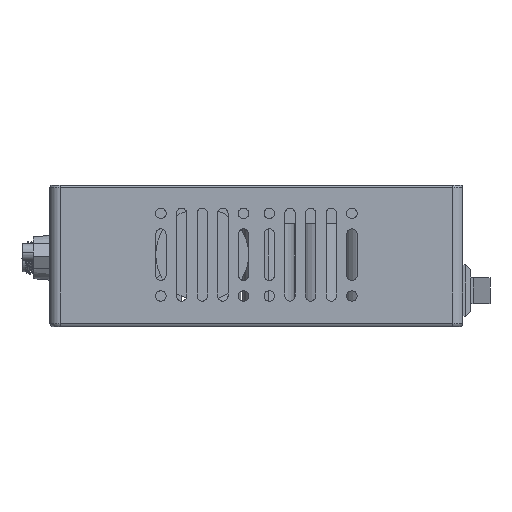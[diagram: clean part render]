
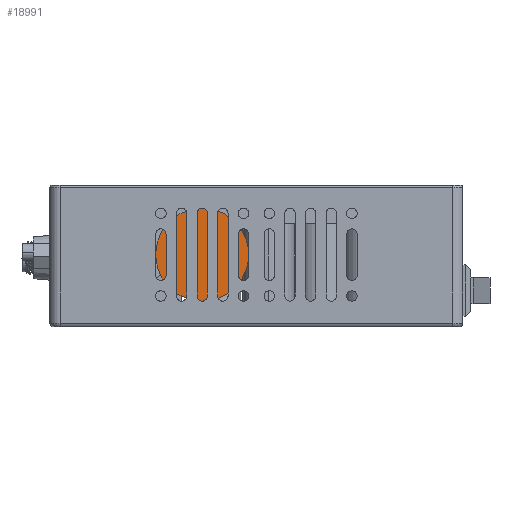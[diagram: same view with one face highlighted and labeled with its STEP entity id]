
A CAD part, left-side view. The second image highlights one B-rep face of the part: STEP entity #18991.
In plain terms, the highlighted planar face has unit normal (-1, 0, 0).
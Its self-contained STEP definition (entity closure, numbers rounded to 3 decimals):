
#216 = AXIS2_PLACEMENT_3D ( 'NONE', #12914, #14537, #4670 ) ;
#891 = ORIENTED_EDGE ( 'NONE', *, *, #16534, .T. ) ;
#951 = FACE_OUTER_BOUND ( 'NONE', #12839, .T. ) ;
#1712 = CIRCLE ( 'NONE', #9013, 9. ) ;
#4080 = VERTEX_POINT ( 'NONE', #16727 ) ;
#4670 = DIRECTION ( 'NONE',  ( 0., 0., 1. ) ) ;
#5399 = AXIS2_PLACEMENT_3D ( 'NONE', #9182, #20657, #10846 ) ;
#5947 = CIRCLE ( 'NONE', #5399, 9. ) ;
#6883 = DIRECTION ( 'NONE',  ( -1., 0., 0. ) ) ;
#7052 = ORIENTED_EDGE ( 'NONE', *, *, #14084, .T. ) ;
#9013 = AXIS2_PLACEMENT_3D ( 'NONE', #16677, #6883, #18373 ) ;
#9182 = CARTESIAN_POINT ( 'NONE',  ( -73.404, -2.467, 148.25 ) ) ;
#10846 = DIRECTION ( 'NONE',  ( 0., 0., 1. ) ) ;
#11128 = PLANE ( 'NONE',  #216 ) ;
#12839 = EDGE_LOOP ( 'NONE', ( #891, #7052 ) ) ;
#12914 = CARTESIAN_POINT ( 'NONE',  ( -73.404, -2.467, 148.25 ) ) ;
#14084 = EDGE_CURVE ( 'NONE', #4080, #16623, #1712, .T. ) ;
#14537 = DIRECTION ( 'NONE',  ( -1., 0., 0. ) ) ;
#16534 = EDGE_CURVE ( 'NONE', #16623, #4080, #5947, .T. ) ;
#16623 = VERTEX_POINT ( 'NONE', #17542 ) ;
#16677 = CARTESIAN_POINT ( 'NONE',  ( -73.404, -2.467, 148.25 ) ) ;
#16727 = CARTESIAN_POINT ( 'NONE',  ( -73.404, -2.467, 139.25 ) ) ;
#17542 = CARTESIAN_POINT ( 'NONE',  ( -73.404, -2.467, 157.25 ) ) ;
#18373 = DIRECTION ( 'NONE',  ( 0., 0., 1. ) ) ;
#18991 = ADVANCED_FACE ( 'NONE', ( #951 ), #11128, .T. ) ;
#20657 = DIRECTION ( 'NONE',  ( -1., 0., 0. ) ) ;
